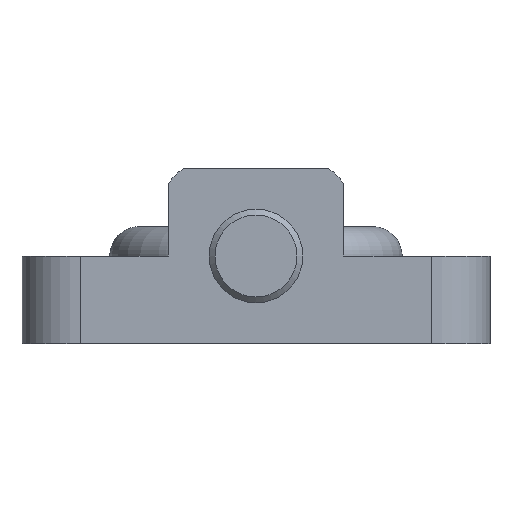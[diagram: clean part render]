
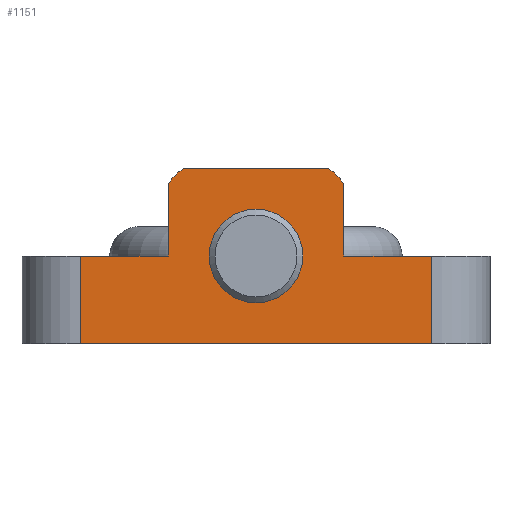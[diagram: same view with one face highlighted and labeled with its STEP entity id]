
A CAD part, front view. The second image highlights one B-rep face of the part: STEP entity #1151.
In plain terms, the highlighted planar face has unit normal (0, -1, 0).
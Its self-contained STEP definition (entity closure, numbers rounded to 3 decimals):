
#50=LINE('',#1828,#150);
#53=LINE('',#1838,#153);
#57=LINE('',#1850,#157);
#64=LINE('',#1872,#164);
#72=LINE('',#1900,#172);
#73=LINE('',#1902,#173);
#74=LINE('',#1903,#174);
#75=LINE('',#1905,#175);
#150=VECTOR('',#1439,1000.);
#153=VECTOR('',#1450,1000.);
#157=VECTOR('',#1462,1000.);
#164=VECTOR('',#1479,1000.);
#172=VECTOR('',#1503,1000.);
#173=VECTOR('',#1504,1000.);
#174=VECTOR('',#1505,1000.);
#175=VECTOR('',#1506,1000.);
#249=PLANE('',#1277);
#422=ORIENTED_EDGE('',*,*,#675,.F.);
#423=ORIENTED_EDGE('',*,*,#640,.F.);
#424=ORIENTED_EDGE('',*,*,#676,.F.);
#425=ORIENTED_EDGE('',*,*,#677,.T.);
#426=ORIENTED_EDGE('',*,*,#662,.F.);
#427=ORIENTED_EDGE('',*,*,#678,.F.);
#428=ORIENTED_EDGE('',*,*,#679,.F.);
#429=ORIENTED_EDGE('',*,*,#651,.F.);
#430=ORIENTED_EDGE('',*,*,#648,.F.);
#431=ORIENTED_EDGE('',*,*,#645,.F.);
#432=ORIENTED_EDGE('',*,*,#642,.F.);
#640=EDGE_CURVE('',#783,#784,#50,.T.);
#642=EDGE_CURVE('',#784,#785,#873,.T.);
#645=EDGE_CURVE('',#785,#787,#53,.T.);
#648=EDGE_CURVE('',#787,#789,#875,.T.);
#651=EDGE_CURVE('',#789,#791,#57,.T.);
#662=EDGE_CURVE('',#801,#802,#64,.T.);
#675=EDGE_CURVE('',#812,#812,#886,.T.);
#676=EDGE_CURVE('',#813,#783,#72,.T.);
#677=EDGE_CURVE('',#813,#802,#73,.T.);
#678=EDGE_CURVE('',#814,#801,#74,.T.);
#679=EDGE_CURVE('',#791,#814,#75,.T.);
#783=VERTEX_POINT('',#1827);
#784=VERTEX_POINT('',#1829);
#785=VERTEX_POINT('',#1833);
#787=VERTEX_POINT('',#1839);
#789=VERTEX_POINT('',#1845);
#791=VERTEX_POINT('',#1851);
#801=VERTEX_POINT('',#1873);
#802=VERTEX_POINT('',#1874);
#812=VERTEX_POINT('',#1899);
#813=VERTEX_POINT('',#1901);
#814=VERTEX_POINT('',#1904);
#873=CIRCLE('',#1259,19.5);
#875=CIRCLE('',#1263,19.5);
#886=CIRCLE('',#1278,8.);
#951=EDGE_LOOP('',(#422));
#952=EDGE_LOOP('',(#423,#424,#425,#426,#427,#428,#429,#430,#431,#432));
#1051=FACE_BOUND('',#951,.T.);
#1052=FACE_BOUND('',#952,.T.);
#1151=ADVANCED_FACE('',(#1051,#1052),#249,.F.);
#1259=AXIS2_PLACEMENT_3D('',#1832,#1443,#1444);
#1263=AXIS2_PLACEMENT_3D('',#1844,#1455,#1456);
#1277=AXIS2_PLACEMENT_3D('',#1897,#1499,#1500);
#1278=AXIS2_PLACEMENT_3D('',#1898,#1501,#1502);
#1439=DIRECTION('',(0.,0.,1.));
#1443=DIRECTION('',(0.,1.,0.));
#1444=DIRECTION('',(1.,0.,0.));
#1450=DIRECTION('',(1.,0.,0.));
#1455=DIRECTION('',(0.,1.,0.));
#1456=DIRECTION('',(1.,0.,0.));
#1462=DIRECTION('',(0.,0.,-1.));
#1479=DIRECTION('',(-1.,0.,0.));
#1499=DIRECTION('',(0.,1.,0.));
#1500=DIRECTION('',(0.,0.,1.));
#1501=DIRECTION('',(0.,-1.,0.));
#1502=DIRECTION('',(0.,0.,-1.));
#1503=DIRECTION('',(1.,0.,0.));
#1504=DIRECTION('',(0.,0.,-1.));
#1505=DIRECTION('',(0.,0.,-1.));
#1506=DIRECTION('',(1.,0.,0.));
#1827=CARTESIAN_POINT('',(-15.,0.,0.));
#1828=CARTESIAN_POINT('',(-15.,0.,-12.46));
#1829=CARTESIAN_POINT('',(-15.,0.,12.46));
#1832=CARTESIAN_POINT('',(0.,0.,0.));
#1833=CARTESIAN_POINT('',(-12.46,0.,15.));
#1838=CARTESIAN_POINT('',(-12.46,0.,15.));
#1839=CARTESIAN_POINT('',(12.46,0.,15.));
#1844=CARTESIAN_POINT('',(0.,0.,0.));
#1845=CARTESIAN_POINT('',(15.,0.,12.46));
#1850=CARTESIAN_POINT('',(15.,0.,12.46));
#1851=CARTESIAN_POINT('',(15.,0.,0.));
#1872=CARTESIAN_POINT('',(12.46,0.,-15.));
#1873=CARTESIAN_POINT('',(30.,0.,-15.));
#1874=CARTESIAN_POINT('',(-30.,0.,-15.));
#1897=CARTESIAN_POINT('',(0.,0.,0.));
#1898=CARTESIAN_POINT('',(0.,0.,0.));
#1899=CARTESIAN_POINT('',(0.,0.,-8.));
#1900=CARTESIAN_POINT('',(-30.,0.,0.));
#1901=CARTESIAN_POINT('',(-30.,0.,0.));
#1902=CARTESIAN_POINT('',(-30.,0.,0.));
#1903=CARTESIAN_POINT('',(30.,0.,0.));
#1904=CARTESIAN_POINT('',(30.,0.,0.));
#1905=CARTESIAN_POINT('',(-30.,0.,0.));
